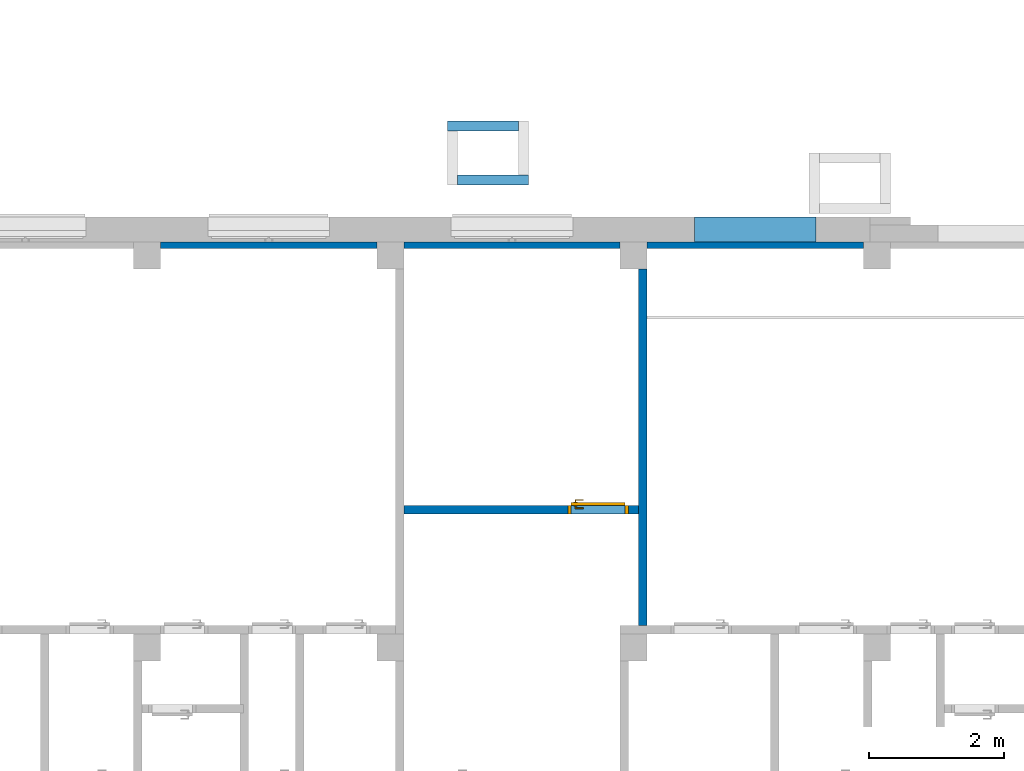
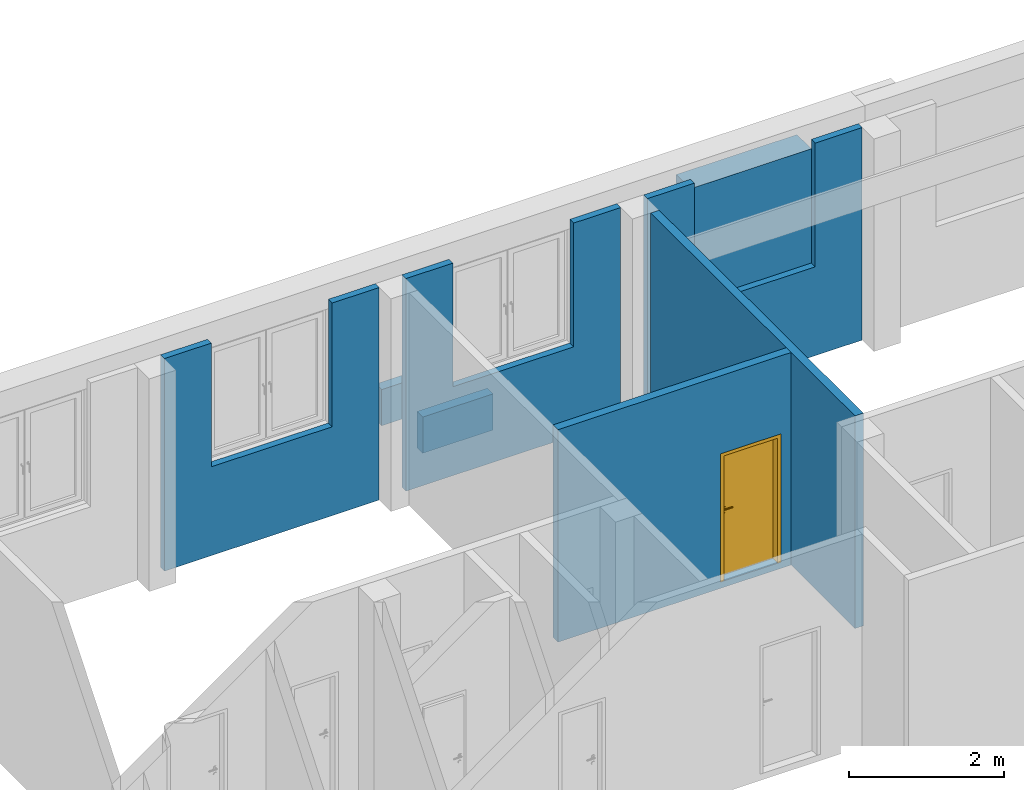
# One storey, part 10 of 37: 8 walls, 1 door, 4 openings.
"""IFC4 building model written with IfcOpenShell, lengths in metres."""

from ifc_helpers import new_model, entity, si_unit, converted_unit, derived_unit, frame, frame_2d, origin, origin_with_axes, place, context, subcontext, project, spatial, polyline, rectangle, outline, extrude, closed_shell, open_shell, surface_model, source, transform, mapped, material, layer, layer_set, layer_usage, type_object, element, fill, save


model = new_model("IFC4")

# Units and contexts
model_context = context("Model", 3, precision=1e-05, world=origin())
body_context = subcontext(model_context, "Body", "Model", "MODEL_VIEW")
ifc_project = project(units=[si_unit("LENGTHUNIT", "METRE"), si_unit("AREAUNIT", "SQUARE_METRE"), si_unit("VOLUMEUNIT", "CUBIC_METRE"), si_unit("MASSUNIT", "GRAM", prefix="KILO"), converted_unit("PLANEANGLEUNIT", "DEGREE", entity("IfcPlaneAngleMeasure", 0.0174532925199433), si_unit("PLANEANGLEUNIT", "RADIAN"), dimensions=[0, 0, 0, 0, 0, 0, 0]), derived_unit("THERMALTRANSMITTANCEUNIT", [(si_unit("POWERUNIT", "WATT"), 1), (si_unit("THERMODYNAMICTEMPERATUREUNIT", "KELVIN"), -1), (si_unit("LENGTHUNIT", "METRE"), -2)]), derived_unit("VOLUMETRICFLOWRATEUNIT", [(si_unit("LENGTHUNIT", "METRE"), 3), (converted_unit("TIMEUNIT", "hour", entity("IfcTimeMeasure", 3600.0), si_unit("TIMEUNIT", "SECOND"), dimensions=[0, 0, 1, 0, 0, 0, 0]), -1), (si_unit("LENGTHUNIT", "METRE"), -1)])], contexts=[model_context])

# Site, building, storey
site_placement = place(None, origin())
site = spatial("IfcSite", under=ifc_project, at=site_placement, Name="3. ASŘ", CompositionType="ELEMENT")
building_placement = place(site_placement, origin())
building = spatial("IfcBuilding", under=site, at=building_placement, Name="Pavilon B", CompositionType="ELEMENT")
storey_placement = place(building_placement, origin())
storey = spatial("IfcBuildingStorey", under=building, at=storey_placement, Name="Půdorys 1.NP", CompositionType="ELEMENT", Elevation=0.0)

# Wall, opening
ifc_material_1 = material(Name="PÓROBETONOVÉ ZDIVO")
ifc_layer_1 = layer(ifc_material_1, 0.1)
ifc_layer_set_1 = layer_set([ifc_layer_1])
ifc_layer_usage_1 = layer_usage(ifc_layer_set_1, "AXIS2", "POSITIVE", 0.0)
wall_1_placement = place(storey_placement, frame((20.8, -15.6, -0.1), z_axis=(0.0, 0.0, 1.0), x_axis=(-1.0, 0.0, 0.0)))
wall_1 = element("IfcWall", 1, at=wall_1_placement, inside=storey, material=ifc_layer_usage_1, Name="PÓROBETONOVÉ ZDIVO", context=body_context, shape_type="SweptSolid", body=[
    extrude(rectangle(XDim=3.2, YDim=0.1, at=frame_2d((1.6, 0.05), x_axis=(1.0, 0.0))), origin_with_axes(), (0.0, 0.0, 1.0), 3.35),
])
opening_1_placement = place(wall_1_placement, frame((2.5, 0.1, 1.4), z_axis=(0.0, -1.0, 0.0), x_axis=(0.0, 0.0, 1.0)))
element("IfcOpeningElement", 2, at=opening_1_placement, cuts=wall_1, Name="Okenní otvor", ObjectType="Opening", context=body_context, shape_type="SweptSolid", body=[
    extrude(outline(polyline([(0.0, 1.8), (1.95, 1.8), (1.95, 0.0), (0.0, 0.0), (0.0, 1.8)])), origin_with_axes(), (0.0, 0.0, 1.0), 0.1),
])

ifc_material_2 = material(Name="PÓROBETONOVÉ ZDIVO")
ifc_layer_2 = layer(ifc_material_2, 0.1)
ifc_layer_set_2 = layer_set([ifc_layer_2])
ifc_layer_usage_2 = layer_usage(ifc_layer_set_2, "AXIS2", "POSITIVE", 0.0)
wall_2_placement = place(storey_placement, frame((28.0, -15.6, -0.1), z_axis=(0.0, 0.0, 1.0), x_axis=(-1.0, 0.0, 0.0)))
wall_2 = element("IfcWall", 3, at=wall_2_placement, inside=storey, material=ifc_layer_usage_2, Name="PÓROBETONOVÉ ZDIVO", context=body_context, shape_type="SweptSolid", body=[
    extrude(rectangle(XDim=3.2, YDim=0.1, at=frame_2d((1.6, 0.05), x_axis=(1.0, 0.0))), origin_with_axes(), (0.0, 0.0, 1.0), 3.35),
])
opening_2_placement = place(wall_2_placement, frame((2.5, 0.1, 1.4), z_axis=(0.0, -1.0, 0.0), x_axis=(0.0, 0.0, 1.0)))
element("IfcOpeningElement", 4, at=opening_2_placement, cuts=wall_2, Name="Okenní otvor", ObjectType="Opening", context=body_context, shape_type="SweptSolid", body=[
    extrude(outline(polyline([(0.0, 1.8), (1.95, 1.8), (1.95, 0.0), (0.0, 0.0), (0.0, 1.8)])), origin_with_axes(), (0.0, 0.0, 1.0), 0.1),
])

ifc_material_3 = material(Name="PÓROBETONOVÉ ZDIVO")
ifc_layer_3 = layer(ifc_material_3, 0.1)
ifc_layer_set_3 = layer_set([ifc_layer_3])
ifc_layer_usage_3 = layer_usage(ifc_layer_set_3, "AXIS2", "POSITIVE", 0.0)
wall_3_placement = place(storey_placement, frame((24.4, -15.6, -0.1), z_axis=(0.0, 0.0, 1.0), x_axis=(-1.0, 0.0, 0.0)))
wall_3 = element("IfcWall", 5, at=wall_3_placement, inside=storey, material=ifc_layer_usage_3, Name="PÓROBETONOVÉ ZDIVO", context=body_context, shape_type="SweptSolid", body=[
    extrude(rectangle(XDim=3.2, YDim=0.1, at=frame_2d((1.6, 0.05), x_axis=(1.0, 0.0))), origin_with_axes(), (0.0, 0.0, 1.0), 3.35),
])
opening_3_placement = place(wall_3_placement, frame((2.5, 0.1, 1.4), z_axis=(0.0, -1.0, 0.0), x_axis=(0.0, 0.0, 1.0)))
element("IfcOpeningElement", 6, at=opening_3_placement, cuts=wall_3, Name="Okenní otvor", ObjectType="Opening", context=body_context, shape_type="SweptSolid", body=[
    extrude(outline(polyline([(0.0, 1.8), (1.95, 1.8), (1.95, 0.0), (0.0, 0.0), (0.0, 1.8)])), origin_with_axes(), (0.0, 0.0, 1.0), 0.1),
])

# Wall
ifc_material_4 = material(Name="ZDIVO Z CDm")
ifc_layer_4 = layer(ifc_material_4, 0.125)
ifc_layer_set_4 = layer_set([ifc_layer_4])
ifc_layer_usage_4 = layer_usage(ifc_layer_set_4, "AXIS2", "POSITIVE", 0.0)
wall_4_placement = place(storey_placement, frame((24.8, -21.275, -0.1), z_axis=(0.0, 0.0, 1.0), x_axis=(0.0, 1.0, 0.0)))
element("IfcWall", 7, at=wall_4_placement, inside=storey, material=ifc_layer_usage_4, Name="ZDIVO Z CDm", context=body_context, shape_type="SweptSolid", body=[
    extrude(rectangle(XDim=5.275, YDim=0.125, at=frame_2d((2.6375, 0.0625), x_axis=(1.0, 0.0))), origin_with_axes(), (0.0, 0.0, 1.0), 3.35),
])

# Wall, opening, door
ifc_material_5 = material(Name="ZDIVO Z CDm")
ifc_layer_5 = layer(ifc_material_5, 0.125)
ifc_layer_set_5 = layer_set([ifc_layer_5])
ifc_layer_usage_5 = layer_usage(ifc_layer_set_5, "AXIS2", "POSITIVE", 0.0)
wall_5_placement = place(storey_placement, frame((24.675, -19.5, -0.1), z_axis=(0.0, 0.0, 1.0), x_axis=(-1.0, 0.0, 0.0)))
wall_5 = element("IfcWall", 8, at=wall_5_placement, inside=storey, material=ifc_layer_usage_5, Name="ZDIVO Z CDm", context=body_context, shape_type="SweptSolid", body=[
    extrude(rectangle(XDim=3.475, YDim=0.125, at=frame_2d((1.7375, 0.0625), x_axis=(1.0, 0.0))), origin_with_axes(), (0.0, 0.0, 1.0), 3.35),
])
opening_4_placement = place(wall_5_placement, frame((0.15, 0.0, 0.1), z_axis=(0.0, 1.0, 0.0), x_axis=(0.0, 0.0, 1.0)))
opening_4 = element("IfcOpeningElement", 9, at=opening_4_placement, cuts=wall_5, Name="Dveřní otvor", ObjectType="Opening", context=body_context, shape_type="SweptSolid", body=[
    extrude(outline(polyline([(0.0, 0.9), (2.02, 0.9), (2.02, 0.0), (0.0, 0.0), (0.0, 0.9)])), origin_with_axes(), (0.0, 0.0, 1.0), 0.125),
])
door_type = type_object("IfcDoorType", Name="D101", OperationType="NOTDEFINED", ParameterTakesPrecedence=False, PredefinedType="DOOR")
shared_shape = source(origin_with_axes(), body_context, "Body", "SurfaceModel", [
    surface_model("IfcShellBasedSurfaceModel", [(0.0, 0.125, 2.02), (0.0, 0.125, -7.65404249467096e-18), (0.05, 0.125, -7.65404249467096e-18), (0.05, 0.125, 2.02), (0.0, 0.0, 7.65404249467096e-18), (0.0, 2.41584530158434e-16, 2.02), (0.05, 2.41584530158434e-16, 2.02), (0.05, 0.0, 7.65404249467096e-18)], [closed_shell([[[0, 1, 2, 3]], [[4, 5, 6, 7]], [[1, 0, 5, 4]], [[2, 1, 4, 7]], [[3, 2, 7, 6]], [[0, 3, 6, 5]]], orient=[[False], [False], [False], [False], [False], [False]])]),
    surface_model("IfcShellBasedSurfaceModel", [(0.85, 0.125, 2.02), (0.85, 0.125, -7.65404249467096e-18), (0.9, 0.125, -7.65404249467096e-18), (0.9, 0.125, 2.02), (0.85, 0.0, 7.65404249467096e-18), (0.85, 2.41584530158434e-16, 2.02), (0.9, 2.41584530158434e-16, 2.02), (0.9, 0.0, 7.65404249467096e-18)], [closed_shell([[[0, 1, 2, 3]], [[4, 5, 6, 7]], [[1, 0, 5, 4]], [[2, 1, 4, 7]], [[3, 2, 7, 6]], [[0, 3, 6, 5]]], orient=[[False], [False], [False], [False], [False], [False]])]),
    surface_model("IfcShellBasedSurfaceModel", [(0.05, 0.125, 2.02), (0.05, 0.125, 1.97), (0.85, 0.125, 1.97), (0.85, 0.125, 2.02), (0.05, 2.41584530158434e-16, 1.97), (0.05, 2.41584530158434e-16, 2.02), (0.85, 2.41584530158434e-16, 2.02), (0.85, 2.41584530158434e-16, 1.97)], [closed_shell([[[0, 1, 2, 3]], [[4, 5, 6, 7]], [[1, 0, 5, 4]], [[2, 1, 4, 7]], [[3, 2, 7, 6]], [[0, 3, 6, 5]]], orient=[[False], [False], [False], [False], [False], [False]])]),
    surface_model("IfcShellBasedSurfaceModel", [(0.05, 0.165, 1.97), (0.05, 0.165, -1.25526296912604e-17), (0.85, 0.165, -1.25526296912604e-17), (0.85, 0.165, 1.97), (0.05, 0.125, -7.65404249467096e-18), (0.05, 0.125, 1.97), (0.85, 0.125, 1.97), (0.85, 0.125, -7.65404249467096e-18)], [closed_shell([[[0, 1, 2, 3]], [[4, 5, 6, 7]], [[1, 0, 5, 4]], [[2, 1, 4, 7]], [[3, 2, 7, 6]], [[0, 3, 6, 5]]], orient=[[False], [False], [False], [False], [False], [False]])]),
    surface_model("IfcShellBasedSurfaceModel", [(0.808815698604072, 0.125, 0.93625), (0.8125, 0.125, 0.95), (0.808815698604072, 0.125, 0.96375), (0.79875, 0.125, 0.973815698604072), (0.785, 0.125, 0.9775), (0.77125, 0.125, 0.973815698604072), (0.761184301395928, 0.125, 0.96375), (0.7575, 0.125, 0.95), (0.761184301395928, 0.125, 0.93625), (0.77125, 0.125, 0.926184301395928), (0.785, 0.125, 0.9225), (0.79875, 0.125, 0.926184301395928), (0.8125, 0.1125, 0.95), (0.808815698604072, 0.1125, 0.93625), (0.79875, 0.1125, 0.926184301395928), (0.785, 0.1125, 0.9225), (0.77125, 0.1125, 0.926184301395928), (0.761184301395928, 0.1125, 0.93625), (0.7575, 0.1125, 0.95), (0.761184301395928, 0.1125, 0.96375), (0.77125, 0.1125, 0.973815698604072), (0.785, 0.1125, 0.9775), (0.79875, 0.1125, 0.973815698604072), (0.808815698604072, 0.1125, 0.96375)], [closed_shell([[[0, 1, 2, 3, 4, 5, 6, 7, 8, 9, 10, 11]], [[12, 13, 14, 15, 16, 17, 18, 19, 20, 21, 22, 23]], [[1, 0, 13, 12]], [[2, 1, 12, 23]], [[3, 2, 23, 22]], [[4, 3, 22, 21]], [[5, 4, 21, 20]], [[6, 5, 20, 19]], [[7, 6, 19, 18]], [[8, 7, 18, 17]], [[9, 8, 17, 16]], [[10, 9, 16, 15]], [[11, 10, 15, 14]], [[0, 11, 14, 13]]], orient=[[False], [False], [False], [False], [False], [False], [False], [False], [False], [False], [False], [False], [False], [False]])]),
    surface_model("IfcShellBasedSurfaceModel", [(0.808815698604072, 0.125, 1.03625), (0.8125, 0.125, 1.05), (0.808815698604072, 0.125, 1.06375), (0.79875, 0.125, 1.07381569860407), (0.785, 0.125, 1.0775), (0.77125, 0.125, 1.07381569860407), (0.761184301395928, 0.125, 1.06375), (0.7575, 0.125, 1.05), (0.761184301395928, 0.125, 1.03625), (0.77125, 0.125, 1.02618430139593), (0.785, 0.125, 1.0225), (0.79875, 0.125, 1.02618430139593), (0.8125, 0.1125, 1.05), (0.808815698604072, 0.1125, 1.03625), (0.79875, 0.1125, 1.02618430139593), (0.785, 0.1125, 1.0225), (0.77125, 0.1125, 1.02618430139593), (0.761184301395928, 0.1125, 1.03625), (0.7575, 0.1125, 1.05), (0.761184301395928, 0.1125, 1.06375), (0.77125, 0.1125, 1.07381569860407), (0.785, 0.1125, 1.0775), (0.79875, 0.1125, 1.07381569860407), (0.808815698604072, 0.1125, 1.06375)], [closed_shell([[[0, 1, 2, 3, 4, 5, 6, 7, 8, 9, 10, 11]], [[12, 13, 14, 15, 16, 17, 18, 19, 20, 21, 22, 23]], [[1, 0, 13, 12]], [[2, 1, 12, 23]], [[3, 2, 23, 22]], [[4, 3, 22, 21]], [[5, 4, 21, 20]], [[6, 5, 20, 19]], [[7, 6, 19, 18]], [[8, 7, 18, 17]], [[9, 8, 17, 16]], [[10, 9, 16, 15]], [[11, 10, 15, 14]], [[0, 11, 14, 13]]], orient=[[False], [False], [False], [False], [False], [False], [False], [False], [False], [False], [False], [False], [False], [False]])]),
    surface_model("IfcShellBasedSurfaceModel", [(0.785, 0.125, 1.06), (0.78, 0.125, 1.05866025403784), (0.776339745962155, 0.125, 1.055), (0.775, 0.125, 1.05), (0.776339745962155, 0.125, 1.045), (0.78, 0.125, 1.04133974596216), (0.785, 0.125, 1.04), (0.79, 0.125, 1.04133974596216), (0.793660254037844, 0.125, 1.045), (0.795, 0.125, 1.05), (0.793660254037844, 0.125, 1.055), (0.79, 0.125, 1.05866025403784), (0.79, 0.0800000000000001, 1.05866025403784), (0.785, 0.0850000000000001, 1.06), (0.793660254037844, 0.0763397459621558, 1.055), (0.795, 0.0750000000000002, 1.05), (0.793660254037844, 0.0763397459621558, 1.045), (0.79, 0.0800000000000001, 1.04133974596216), (0.785, 0.0850000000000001, 1.04), (0.78, 0.0900000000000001, 1.04133974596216), (0.776339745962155, 0.0936602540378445, 1.045), (0.775, 0.0950000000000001, 1.05), (0.776339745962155, 0.0936602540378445, 1.055), (0.78, 0.0900000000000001, 1.05866025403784), (0.67, 0.0800000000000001, 1.05866025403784), (0.67, 0.0850000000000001, 1.06), (0.67, 0.0763397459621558, 1.055), (0.67, 0.0750000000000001, 1.05), (0.67, 0.0763397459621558, 1.045), (0.67, 0.0800000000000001, 1.04133974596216), (0.67, 0.0850000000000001, 1.04), (0.67, 0.0900000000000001, 1.04133974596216), (0.67, 0.0936602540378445, 1.045), (0.67, 0.0950000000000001, 1.05), (0.67, 0.0936602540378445, 1.055), (0.67, 0.0900000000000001, 1.05866025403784)], [open_shell([[[0, 1, 2, 3, 4, 5, 6, 7, 8, 9, 10, 11]], [[0, 11, 12, 13]], [[11, 10, 14, 12]], [[10, 9, 15, 14]], [[9, 8, 16, 15]], [[8, 7, 17, 16]], [[7, 6, 18, 17]], [[6, 5, 19, 18]], [[5, 4, 20, 19]], [[4, 3, 21, 20]], [[3, 2, 22, 21]], [[2, 1, 23, 22]], [[1, 0, 13, 23]], [[13, 12, 24, 25]], [[12, 14, 26, 24]], [[14, 15, 27, 26]], [[15, 16, 28, 27]], [[16, 17, 29, 28]], [[17, 18, 30, 29]], [[18, 19, 31, 30]], [[19, 20, 32, 31]], [[20, 21, 33, 32]], [[21, 22, 34, 33]], [[22, 23, 35, 34]], [[23, 13, 25, 35]]], orient=[[False], [False], [False], [False], [False], [False], [False], [False], [False], [False], [False], [False], [False], [False], [False], [False], [False], [False], [False], [False], [False], [False], [False], [False], [False]])]),
    surface_model("IfcShellBasedSurfaceModel", [(0.808815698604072, 0.165, 0.93625), (0.79875, 0.165, 0.926184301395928), (0.785, 0.165, 0.9225), (0.77125, 0.165, 0.926184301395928), (0.761184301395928, 0.165, 0.93625), (0.7575, 0.165, 0.95), (0.761184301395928, 0.165, 0.96375), (0.77125, 0.165, 0.973815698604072), (0.785, 0.165, 0.9775), (0.79875, 0.165, 0.973815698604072), (0.808815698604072, 0.165, 0.96375), (0.8125, 0.165, 0.95), (0.8125, 0.1775, 0.95), (0.808815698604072, 0.1775, 0.96375), (0.79875, 0.1775, 0.973815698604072), (0.785, 0.1775, 0.9775), (0.77125, 0.1775, 0.973815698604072), (0.761184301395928, 0.1775, 0.96375), (0.7575, 0.1775, 0.95), (0.761184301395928, 0.1775, 0.93625), (0.77125, 0.1775, 0.926184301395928), (0.785, 0.1775, 0.9225), (0.79875, 0.1775, 0.926184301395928), (0.808815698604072, 0.1775, 0.93625)], [closed_shell([[[0, 1, 2, 3, 4, 5, 6, 7, 8, 9, 10, 11]], [[12, 13, 14, 15, 16, 17, 18, 19, 20, 21, 22, 23]], [[11, 12, 23, 0]], [[10, 13, 12, 11]], [[9, 14, 13, 10]], [[8, 15, 14, 9]], [[7, 16, 15, 8]], [[6, 17, 16, 7]], [[5, 18, 17, 6]], [[4, 19, 18, 5]], [[3, 20, 19, 4]], [[2, 21, 20, 3]], [[1, 22, 21, 2]], [[0, 23, 22, 1]]], orient=[[False], [False], [False], [False], [False], [False], [False], [False], [False], [False], [False], [False], [False], [False]])]),
    surface_model("IfcShellBasedSurfaceModel", [(0.808815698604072, 0.165, 1.03625), (0.79875, 0.165, 1.02618430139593), (0.785, 0.165, 1.0225), (0.77125, 0.165, 1.02618430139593), (0.761184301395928, 0.165, 1.03625), (0.7575, 0.165, 1.05), (0.761184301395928, 0.165, 1.06375), (0.77125, 0.165, 1.07381569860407), (0.785, 0.165, 1.0775), (0.79875, 0.165, 1.07381569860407), (0.808815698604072, 0.165, 1.06375), (0.8125, 0.165, 1.05), (0.8125, 0.1775, 1.05), (0.808815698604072, 0.1775, 1.06375), (0.79875, 0.1775, 1.07381569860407), (0.785, 0.1775, 1.0775), (0.77125, 0.1775, 1.07381569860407), (0.761184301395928, 0.1775, 1.06375), (0.7575, 0.1775, 1.05), (0.761184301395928, 0.1775, 1.03625), (0.77125, 0.1775, 1.02618430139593), (0.785, 0.1775, 1.0225), (0.79875, 0.1775, 1.02618430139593), (0.808815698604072, 0.1775, 1.03625)], [closed_shell([[[0, 1, 2, 3, 4, 5, 6, 7, 8, 9, 10, 11]], [[12, 13, 14, 15, 16, 17, 18, 19, 20, 21, 22, 23]], [[11, 12, 23, 0]], [[10, 13, 12, 11]], [[9, 14, 13, 10]], [[8, 15, 14, 9]], [[7, 16, 15, 8]], [[6, 17, 16, 7]], [[5, 18, 17, 6]], [[4, 19, 18, 5]], [[3, 20, 19, 4]], [[2, 21, 20, 3]], [[1, 22, 21, 2]], [[0, 23, 22, 1]]], orient=[[False], [False], [False], [False], [False], [False], [False], [False], [False], [False], [False], [False], [False], [False]])]),
    surface_model("IfcShellBasedSurfaceModel", [(0.785, 0.165, 1.06), (0.79, 0.165, 1.05866025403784), (0.793660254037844, 0.165, 1.055), (0.795, 0.165, 1.05), (0.793660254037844, 0.165, 1.045), (0.79, 0.165, 1.04133974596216), (0.785, 0.165, 1.04), (0.78, 0.165, 1.04133974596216), (0.776339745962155, 0.165, 1.045), (0.775, 0.165, 1.05), (0.776339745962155, 0.165, 1.055), (0.78, 0.165, 1.05866025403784), (0.785, 0.205, 1.06), (0.79, 0.21, 1.05866025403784), (0.793660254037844, 0.213660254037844, 1.055), (0.795, 0.215, 1.05), (0.793660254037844, 0.213660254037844, 1.045), (0.79, 0.21, 1.04133974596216), (0.785, 0.205, 1.04), (0.78, 0.2, 1.04133974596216), (0.776339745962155, 0.196339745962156, 1.045), (0.775, 0.195, 1.05), (0.776339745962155, 0.196339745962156, 1.055), (0.78, 0.2, 1.05866025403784), (0.67, 0.205, 1.06), (0.67, 0.21, 1.05866025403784), (0.67, 0.213660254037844, 1.055), (0.67, 0.215, 1.05), (0.67, 0.213660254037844, 1.045), (0.67, 0.21, 1.04133974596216), (0.67, 0.205, 1.04), (0.67, 0.2, 1.04133974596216), (0.67, 0.196339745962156, 1.045), (0.67, 0.195, 1.05), (0.67, 0.196339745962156, 1.055), (0.67, 0.2, 1.05866025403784)], [open_shell([[[0, 1, 2, 3, 4, 5, 6, 7, 8, 9, 10, 11]], [[0, 12, 13, 1]], [[1, 13, 14, 2]], [[2, 14, 15, 3]], [[3, 15, 16, 4]], [[4, 16, 17, 5]], [[5, 17, 18, 6]], [[6, 18, 19, 7]], [[7, 19, 20, 8]], [[8, 20, 21, 9]], [[9, 21, 22, 10]], [[10, 22, 23, 11]], [[11, 23, 12, 0]], [[12, 24, 25, 13]], [[13, 25, 26, 14]], [[14, 26, 27, 15]], [[15, 27, 28, 16]], [[16, 28, 29, 17]], [[17, 29, 30, 18]], [[18, 30, 31, 19]], [[19, 31, 32, 20]], [[20, 32, 33, 21]], [[21, 33, 34, 22]], [[22, 34, 35, 23]], [[23, 35, 24, 12]]], orient=[[False], [False], [False], [False], [False], [False], [False], [False], [False], [False], [False], [False], [False], [False], [False], [False], [False], [False], [False], [False], [False], [False], [False], [False], [False]])]),
])
door_placement = place(opening_4_placement, frame((0.0, 0.0, 0.125), z_axis=(1.0, 0.0, 0.0), x_axis=(0.0, 1.0, -2.44929359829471e-16)))
door = element("IfcDoor", 10, at=door_placement, inside=storey, type_object=door_type, Name="D101", OverallHeight=2.02, OverallWidth=0.9, context=body_context, shape_type="MappedRepresentation", body=[
    mapped(shared_shape, transform((0.0, 0.0, 0.0), x_axis=(1.0, 0.0, 0.0), y_axis=(0.0, -1.0, 0.0), z_axis=(0.0, 0.0, 1.0), scale=1.0)),
])
fill(opening_4, door)

# Walls
ifc_material_6 = material(Name="ZELEZOBETONOVÁ KCE")
ifc_layer_6 = layer(ifc_material_6, 0.15)
ifc_layer_set_6 = layer_set([ifc_layer_6])
ifc_layer_usage_6 = layer_usage(ifc_layer_set_6, "AXIS2", "POSITIVE", 0.0)
wall_6_placement = place(storey_placement, frame((22.8930036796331, -13.8107926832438, -0.35), z_axis=(0.0, 0.0, 1.0), x_axis=(-1.0, 0.0, 0.0)))
element("IfcWall", 11, at=wall_6_placement, inside=storey, material=ifc_layer_usage_6, Name="ZELEZOBETONOVÁ KCE", context=body_context, shape_type="SweptSolid", body=[
    extrude(rectangle(XDim=1.05, YDim=0.15, at=frame_2d((0.525, 0.075), x_axis=(1.0, 0.0))), origin_with_axes(), (0.0, 0.0, 1.0), 0.57),
])
ifc_material_7 = material(Name="ZELEZOBETONOVÁ KCE")
ifc_layer_7 = layer(ifc_material_7, 0.15)
ifc_layer_set_7 = layer_set([ifc_layer_7])
ifc_layer_usage_7 = layer_usage(ifc_layer_set_7, "AXIS2", "POSITIVE", 0.0)
wall_7_placement = place(storey_placement, frame((21.9930036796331, -14.7607926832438, -0.35)))
element("IfcWall", 12, at=wall_7_placement, inside=storey, material=ifc_layer_usage_7, Name="ZELEZOBETONOVÁ KCE", context=body_context, shape_type="SweptSolid", body=[
    extrude(rectangle(XDim=1.05, YDim=0.15, at=frame_2d((0.525, 0.075), x_axis=(1.0, 0.0))), origin_with_axes(), (0.0, 0.0, 1.0), 0.57),
])
ifc_material_8 = material(Name="YTONG 250")
ifc_layer_8 = layer(ifc_material_8, 0.25)
ifc_material_9 = material(Name="MINERÁLNÍ VATA")
ifc_layer_9 = layer(ifc_material_9, 0.119999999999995)
ifc_layer_set_8 = layer_set([ifc_layer_8, ifc_layer_9])
ifc_layer_usage_8 = layer_usage(ifc_layer_set_8, "AXIS2", "POSITIVE", 0.0)
wall_8_placement = place(storey_placement, frame((25.5, -15.6, 1.3)))
element("IfcWall", 13, at=wall_8_placement, inside=storey, material=ifc_layer_usage_8, Name="YTONG 250", context=body_context, shape_type="SweptSolid", body=[
    extrude(rectangle(XDim=1.8, YDim=0.369999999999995, at=frame_2d((0.9, 0.184999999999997), x_axis=(1.0, 0.0))), origin_with_axes(), (0.0, 0.0, 1.0), 1.8),
])

save(model, "model.ifc")
